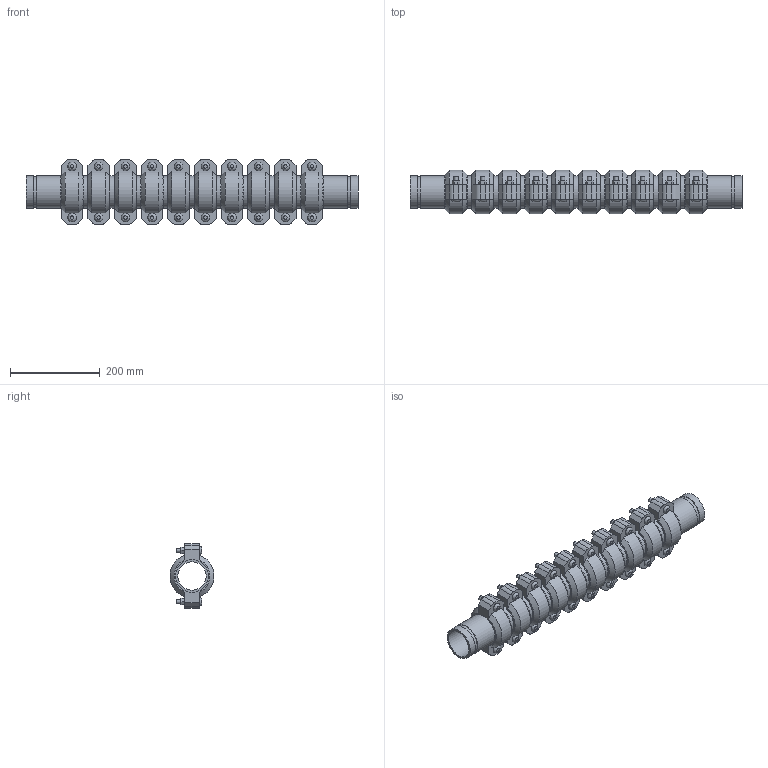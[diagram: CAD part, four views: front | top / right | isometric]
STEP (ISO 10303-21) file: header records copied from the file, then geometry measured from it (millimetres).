
FILE_DESCRIPTION(/* description */ ('VIC SS EXPANSION JOINT 10 COUPLINGS NEUTRAL STYLE 155P (OGS) (POTABLE WATER) ','CAx-IF Rec.Pracs.---Representation and Presentation of Product Manufacturing Information (PMI)---4.0---2014-10-13'),/* implementation_level */ '2;1');
FILE_NAME(/* name */ 'C:\Users\kkamble\AppData\Roaming\Autodesk\ApplicationPlugins\Victaulic.Temp\A116\Victaulic_SS_Expansion Joint_Neutral_10 Couplings_Style 155P (OGS)-Potable Water_10 Coup_Neut_2.5 (65).stp',/* time_stamp */ '2021-07-16T16:27:04+06:00',/* author */ ('kkamble'),/* organization */ ('Victaulic'),/* preprocessor_version */ 'ST-DEVELOPER v17.2',/* originating_system */ 'Autodesk Inventor 2019',/* authorisation */ '');
FILE_SCHEMA (('AP242_MANAGED_MODEL_BASED_3D_ENGINEERING_MIM_LF { 1 0 10303 442 1 1 4 }'));
Length unit declared in the file: inch
Products named in the file (4): 155P-02.5; Nipple-02.5; Nipple-02.5_1; 075-02.5
Assembly tree (21 placements, depth 2):
  155P-02.5
    Nipple-02.5  x2
    Nipple-02.5_1  x9
    075-02.5  x10
Bounding box: 741.43 x 98.22 x 144.27 mm (x, y, z)
Volume: 2813882.6 mm3; surface area: 787672.9 mm2
Topology: 21 solids, 41 shells, 702 faces, 1660 edges, 1164 vertices
Faces by surface type: plane 426, cylinder 216, cone 40, bspline 20
Full cylindrical faces by diameter (mm): 9.525 x40, 11.43 x20, 63.475 x11, 66.675 x10, 69.088 x22, 73.025 x53
Entity records: 2881 total; most frequent: CARTESIAN_POINT 505, DIRECTION 485, ORIENTED_EDGE 386, AXIS2_PLACEMENT_3D 196, EDGE_CURVE 193, VERTEX_POINT 138, EDGE_LOOP 107, LINE 93
